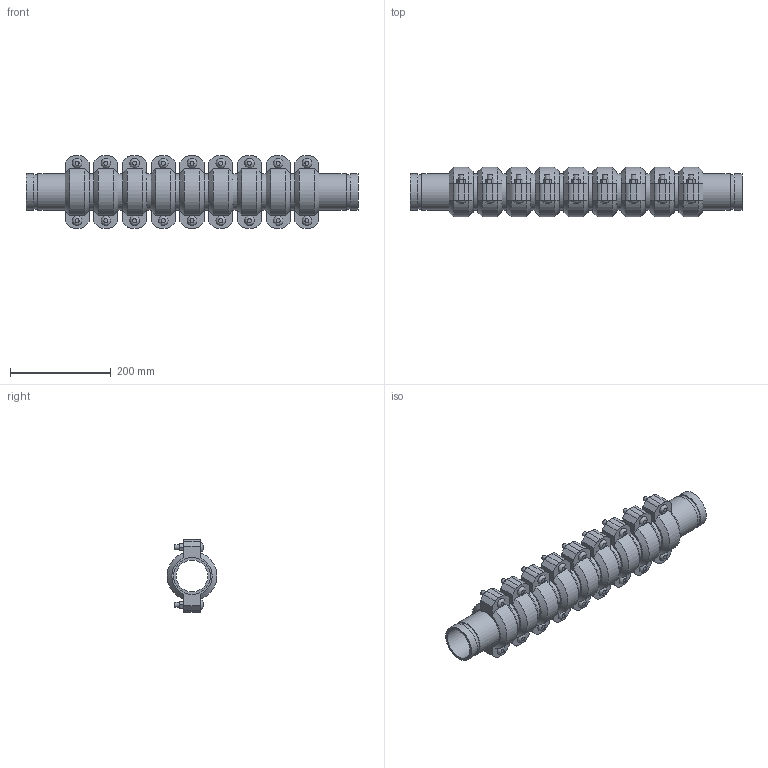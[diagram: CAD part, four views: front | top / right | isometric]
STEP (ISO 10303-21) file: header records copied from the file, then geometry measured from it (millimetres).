
FILE_DESCRIPTION(/* description */ ('VIC SS EXPANSION JOINT 9 COUPLINGS COMPRESSED STYLE 155P (OGS) (POTABLE WATER) ','CAx-IF Rec.Pracs.---Representation and Presentation of Product Manufacturing Information (PMI)---4.0---2014-10-13'),/* implementation_level */ '2;1');
FILE_NAME(/* name */ 'C:\Users\kkamble\AppData\Roaming\Autodesk\ApplicationPlugins\Victaulic.Temp\A693\Victaulic_SS_Expansion Joint_Compressed_9 Couplings_Style 155P (OGS)-Potable Water_9 Coup_Comp_2.5 (65).stp',/* time_stamp */ '2021-07-16T17:18:29+06:00',/* author */ ('kkamble'),/* organization */ ('Victaulic'),/* preprocessor_version */ 'ST-DEVELOPER v17.2',/* originating_system */ 'Autodesk Inventor 2019',/* authorisation */ '');
FILE_SCHEMA (('AP242_MANAGED_MODEL_BASED_3D_ENGINEERING_MIM_LF { 1 0 10303 442 1 1 4 }'));
Length unit declared in the file: inch
Products named in the file (4): 155P-02.5; Nipple-02.5; Nipple-02.5_1; 075-02.5
Assembly tree (19 placements, depth 2):
  155P-02.5
    Nipple-02.5  x2
    Nipple-02.5_1  x8
    075-02.5  x9
Bounding box: 660.4 x 98.22 x 144.27 mm (x, y, z)
Volume: 2537192.8 mm3; surface area: 703262.1 mm2
Topology: 19 solids, 37 shells, 597 faces, 1443 edges, 1014 vertices
Faces by surface type: plane 366, cylinder 177, cone 36, bspline 18
Full cylindrical faces by diameter (mm): 9.525 x36, 11.43 x18, 63.475 x10, 69.088 x20, 73.025 x39
Entity records: 2753 total; most frequent: CARTESIAN_POINT 489, DIRECTION 463, ORIENTED_EDGE 374, EDGE_CURVE 187, AXIS2_PLACEMENT_3D 186, VERTEX_POINT 134, EDGE_LOOP 101, LINE 91
